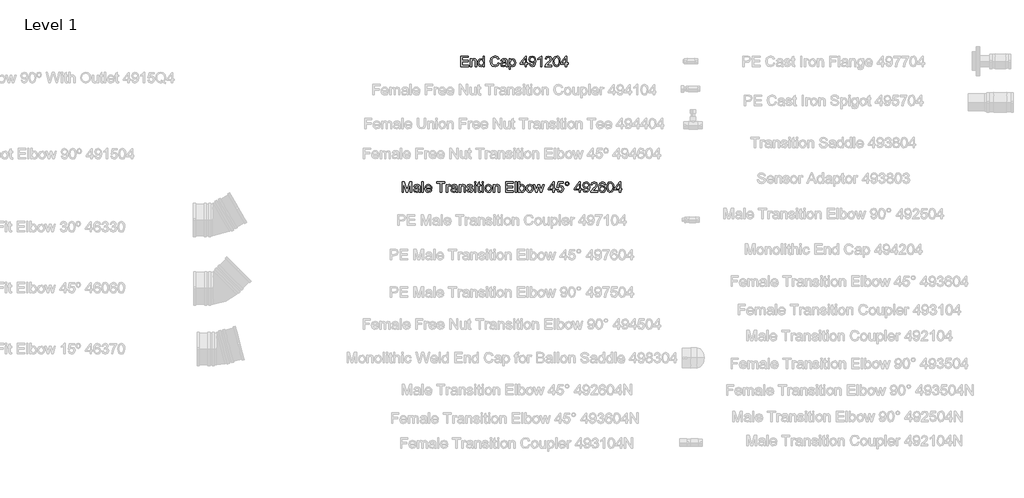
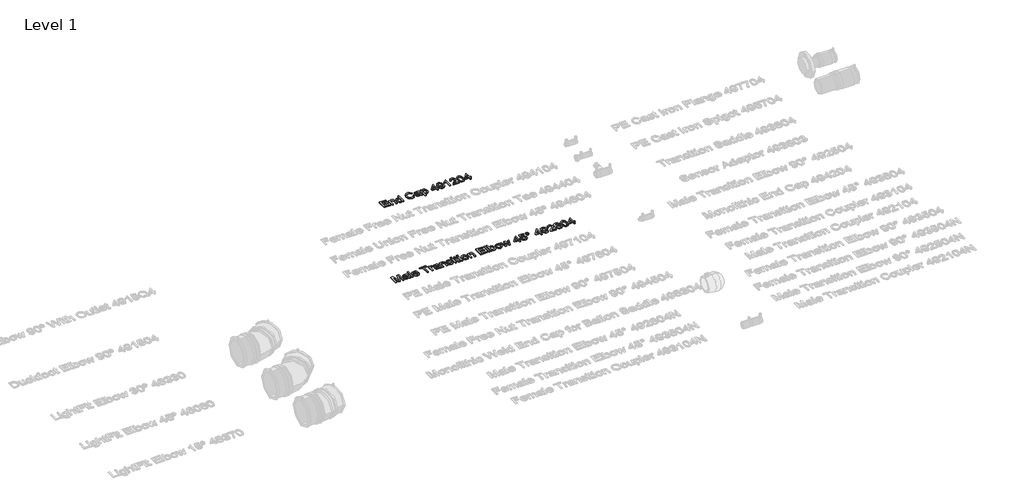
# One storey, part 30 of 38: 2 proxies.
"""IFC4 building model written with IfcOpenShell, lengths in millimetres."""

from ifc_helpers import new_model, si_unit, origin, origin_with_axes, place, context, project, spatial, polyline, outline, extrude, element, save

model = new_model("IFC4")

# Units and contexts
model_context = context("Model", 3, world=origin())
ifc_project = project(units=[si_unit("LENGTHUNIT", "METRE", prefix="MILLI")], contexts=[model_context])

# Site, building, storey
site = spatial("IfcSite", under=ifc_project)
building = spatial("IfcBuilding", under=site)
storey = spatial("IfcBuildingStorey", under=building, Name="Level 1", Elevation=0.0)

# Proxies
placement = place(None, origin())
element("IfcBuildingElementProxy", 1, Name="100 mm Arial", ObjectType="100 mm Arial", at=placement, inside=storey, context=model_context, shape_type="SweptSolid", body=[
    extrude(outline(polyline([(16027.7239556, 5081.8693943), (16027.7239556, 5140.9463174), (16070.185494, 5140.9463174), (16070.185494, 5133.561702), (16035.1085709, 5133.561702), (16035.1085709, 5116.0232405), (16068.3393402, 5116.0232405), (16068.3393402, 5108.6386251), (16035.1085709, 5108.6386251), (16035.1085709, 5089.2540097), (16071.1085709, 5089.2540097), (16071.1085709, 5081.8693943), (16027.7239556, 5081.8693943)])), origin_with_axes(), (0.0, 0.0, 1.0), 5.0),
    extrude(outline(polyline([(16081.2624171, 5081.8693943), (16081.2624171, 5125.2540097), (16088.6470325, 5125.2540097), (16088.6470325, 5119.1963174), (16094.2936671, 5124.4318943), (16102.0028017, 5126.1770866), (16108.9763594, 5124.7708366), (16113.7359748, 5121.078529), (16115.9499171, 5115.6482405), (16116.3393402, 5108.5088174), (16116.3393402, 5081.8693943), (16108.9547248, 5081.8693943), (16108.9547248, 5107.5136251), (16108.1037632, 5114.047279), (16105.0965517, 5117.5016059), (16100.0268402, 5118.7924713), (16092.0148209, 5115.8934328), (16088.6470325, 5104.8886251), (16088.6470325, 5081.8693943), (16081.2624171, 5081.8693943)])), origin_with_axes(), (0.0, 0.0, 1.0), 5.0),
    extrude(outline(polyline([(16153.2624171, 5081.8693943), (16153.2624171, 5088.8357405), (16148.3765998, 5082.9186732), (16141.622994, 5080.9463174), (16132.4787632, 5083.8020866), (16126.0172248, 5091.7708366), (16123.7239556, 5103.5184328), (16125.8369363, 5115.2732405), (16132.1686671, 5123.3645866), (16141.5941479, 5126.1770866), (16148.4018402, 5124.1650674), (16153.2624171, 5118.936702), (16153.2624171, 5140.9463174), (16160.6470325, 5140.9463174), (16160.6470325, 5081.8693943), (16153.2624171, 5081.8693943)]), holes=[polyline([(16131.1085709, 5103.547279), (16134.4403017, 5092.1169905), (16142.3008786, 5088.3309328), (16150.0677056, 5091.9439136), (16153.2624171, 5102.984779), (16150.0100132, 5114.9703559), (16141.997994, 5118.7924713), (16134.2239556, 5115.1217982), (16131.1085709, 5103.547279)])]), origin_with_axes(), (0.0, 0.0, 1.0), 5.0),
    extrude(outline(polyline([(16237.2624171, 5102.8693943), (16244.6470325, 5100.9655482), (16235.8922248, 5086.0737213), (16220.4306863, 5080.9463174), (16205.0628979, 5084.8261251), (16196.0484748, 5096.061702), (16192.9547248, 5111.8549713), (16196.4523209, 5127.9078559), (16206.3970325, 5138.3141059), (16220.5893402, 5141.8693943), (16235.3802056, 5137.2684328), (16243.7239556, 5124.3165097), (16236.3393402, 5122.5568943), (16230.2816479, 5131.6362213), (16220.3008786, 5134.484779), (16208.747994, 5131.3261251), (16202.2215517, 5122.8453559), (16200.3393402, 5111.8693943), (16202.5677056, 5099.1482405), (16209.5052056, 5091.0208366), (16219.6951094, 5088.3309328), (16230.9955902, 5091.9943943), (16237.2624171, 5102.8693943)])), origin_with_axes(), (0.0, 0.0, 1.0), 5.0),
    extrude(outline(polyline([(16281.5701094, 5087.4078559), (16274.4090517, 5082.4030482), (16266.497994, 5080.9463174), (16255.7744363, 5084.4511251), (16252.0316479, 5093.4078559), (16253.4451094, 5099.249202), (16257.1590517, 5103.4895866), (16262.3297248, 5105.9126636), (16268.7191479, 5107.0232405), (16281.5268402, 5109.561702), (16281.5701094, 5111.2059328), (16279.5364556, 5116.6578559), (16271.372994, 5118.7924713), (16263.9018402, 5117.3717982), (16260.3393402, 5112.3309328), (16252.9547248, 5113.2540097), (16256.1494363, 5120.4655482), (16262.5821286, 5124.6915097), (16272.3249171, 5126.1770866), (16281.2744363, 5124.8645866), (16286.3297248, 5121.5689136), (16288.5941479, 5116.5568943), (16288.9547248, 5110.0953559), (16288.9547248, 5100.9078559), (16289.3297248, 5088.078529), (16290.8008786, 5081.8693943), (16283.4162632, 5081.8693943), (16281.5701094, 5087.4078559)]), holes=[polyline([(16281.5701094, 5102.1770866), (16269.6566479, 5099.9126636), (16263.3032825, 5098.7155482), (16260.4258786, 5096.7684328), (16259.4162632, 5093.9270866), (16261.6157825, 5089.9318943), (16268.0701094, 5088.3309328), (16275.5412632, 5090.0977597), (16280.3585709, 5094.374202), (16281.5268402, 5100.0857405), (16281.5701094, 5102.1770866)])]), origin_with_axes(), (0.0, 0.0, 1.0), 5.0),
    extrude(outline(polyline([(16299.1085709, 5065.2540097), (16299.1085709, 5125.2540097), (16306.4931863, 5125.2540097), (16306.4931863, 5118.0136251), (16311.5989556, 5124.1362213), (16318.4931863, 5126.1770866), (16327.8537632, 5123.3213174), (16333.9691479, 5115.2732405), (16336.0316479, 5103.8934328), (16333.7023209, 5091.9294905), (16326.9378979, 5083.780452), (16317.5989556, 5080.9463174), (16311.1734748, 5082.842952), (16306.4931863, 5087.6386251), (16306.4931863, 5065.2540097), (16299.1085709, 5065.2540097)]), holes=[polyline([(16306.4931863, 5103.2155482), (16309.6878979, 5091.9655482), (16317.4403017, 5088.3309328), (16325.3513594, 5092.0953559), (16328.6470325, 5103.7636251), (16325.4306863, 5115.0424713), (16317.7431863, 5118.7924713), (16309.904244, 5114.8044905), (16306.4931863, 5103.2155482)])]), origin_with_axes(), (0.0, 0.0, 1.0), 5.0),
    extrude(outline(polyline([(16389.5701094, 5081.8693943), (16389.5701094, 5095.7155482), (16362.8008786, 5095.7155482), (16362.8008786, 5103.1001636), (16391.4162632, 5140.0232405), (16396.9547248, 5140.0232405), (16396.9547248, 5103.1001636), (16404.3393402, 5103.1001636), (16404.3393402, 5095.7155482), (16396.9547248, 5095.7155482), (16396.9547248, 5081.8693943), (16389.5701094, 5081.8693943)]), holes=[polyline([(16389.5701094, 5103.1001636), (16389.5701094, 5125.9174713), (16371.8874171, 5103.1001636), (16389.5701094, 5103.1001636)])]), origin_with_axes(), (0.0, 0.0, 1.0), 5.0),
    extrude(outline(polyline([(16411.7239556, 5096.6386251), (16419.1085709, 5097.561702), (16422.4258786, 5090.516029), (16428.7143402, 5088.3309328), (16434.6927056, 5089.7371828), (16438.7455902, 5093.4943943), (16441.1614556, 5099.9126636), (16442.2287632, 5108.4799713), (16436.279244, 5104.3261251), (16428.1806863, 5102.1770866), (16415.841744, 5107.4270866), (16410.8008786, 5121.2588174), (16416.0869363, 5135.5376636), (16429.3345325, 5140.9463174), (16439.8561671, 5137.859779), (16447.0965517, 5129.061702), (16449.5701094, 5112.5328559), (16447.1037632, 5094.5977597), (16439.7696286, 5084.436702), (16428.3681863, 5080.9463174), (16417.0172248, 5085.0641059), (16411.7239556, 5096.6386251)]), holes=[polyline([(16442.185494, 5121.4318943), (16438.997994, 5130.2876636), (16430.5316479, 5133.561702), (16421.6470325, 5130.0352597), (16418.185494, 5120.8982405), (16421.4595325, 5112.7131443), (16430.3297248, 5109.561702), (16438.8465517, 5112.7131443), (16442.185494, 5121.4318943)])]), origin_with_axes(), (0.0, 0.0, 1.0), 5.0),
    extrude(outline(polyline([(16483.7239556, 5081.8693943), (16476.3393402, 5081.8693943), (16476.3393402, 5127.9078559), (16469.3441479, 5122.9246828), (16461.5701094, 5119.1963174), (16461.5701094, 5126.1770866), (16472.3946286, 5133.0857405), (16478.9643402, 5140.9463174), (16483.7239556, 5140.9463174), (16483.7239556, 5081.8693943)])), origin_with_axes(), (0.0, 0.0, 1.0), 5.0),
    extrude(outline(polyline([(16539.1085709, 5089.2540097), (16539.1085709, 5081.8693943), (16500.3393402, 5081.8693943), (16501.1326094, 5086.9607405), (16505.6181863, 5094.7996828), (16514.8633786, 5103.359779), (16527.6133786, 5115.6626636), (16530.8008786, 5124.0280482), (16527.7936671, 5130.7996828), (16519.9403017, 5133.561702), (16511.7552056, 5130.8645866), (16508.6470325, 5123.4078559), (16501.2624171, 5124.3309328), (16506.9234748, 5136.6915097), (16520.0989556, 5140.9463174), (16533.3177056, 5136.2155482), (16538.185494, 5124.4751636), (16536.872994, 5117.4727597), (16532.5100132, 5110.2323751), (16521.9306863, 5100.1145866), (16513.435494, 5093.0112213), (16510.1037632, 5089.2540097), (16539.1085709, 5089.2540097)])), origin_with_axes(), (0.0, 0.0, 1.0), 5.0),
    extrude(outline(polyline([(16546.4931863, 5110.9318943), (16548.6638594, 5127.9294905), (16555.1109748, 5137.7299713), (16565.8778017, 5140.9463174), (16574.5028017, 5139.0424713), (16580.4595325, 5133.5544905), (16583.9210709, 5124.8141059), (16585.2624171, 5110.9318943), (16583.1133786, 5094.0064136), (16576.6878979, 5084.1842982), (16565.8778017, 5080.9463174), (16558.2047248, 5082.3525674), (16552.3778017, 5086.5713174), (16547.9643402, 5096.562904), (16546.4931863, 5110.9318943)]), holes=[polyline([(16553.8778017, 5110.9463174), (16557.3393402, 5092.6073751), (16565.8778017, 5088.3309328), (16574.4162632, 5092.6217982), (16577.8778017, 5110.9463174), (16574.5316479, 5129.0761251), (16565.7912632, 5133.561702), (16557.4547248, 5129.609779), (16553.8778017, 5110.9463174)])]), origin_with_axes(), (0.0, 0.0, 1.0), 5.0),
    extrude(outline(polyline([(16615.7239556, 5081.8693943), (16615.7239556, 5095.7155482), (16588.9547248, 5095.7155482), (16588.9547248, 5103.1001636), (16617.5701094, 5140.0232405), (16623.1085709, 5140.0232405), (16623.1085709, 5103.1001636), (16630.4931863, 5103.1001636), (16630.4931863, 5095.7155482), (16623.1085709, 5095.7155482), (16623.1085709, 5081.8693943), (16615.7239556, 5081.8693943)]), holes=[polyline([(16615.7239556, 5103.1001636), (16615.7239556, 5125.9174713), (16598.0412632, 5103.1001636), (16615.7239556, 5103.1001636)])]), origin_with_axes(), (0.0, 0.0, 1.0), 5.0),
])
element("IfcBuildingElementProxy", 2, Name="100 mm Arial", ObjectType="100 mm Arial", at=placement, inside=storey, context=model_context, shape_type="SweptSolid", body=[
    extrude(outline(polyline([(15697.4287831, 4374.446795), (15697.4287831, 4433.523718), (15710.1355139, 4433.523718), (15722.2220524, 4391.884295), (15724.6595524, 4383.1871796), (15727.2989754, 4392.6054488), (15739.1835908, 4433.523718), (15751.8903216, 4433.523718), (15751.8903216, 4374.446795), (15744.5057062, 4374.446795), (15744.5057062, 4426.1391027), (15729.6643601, 4374.446795), (15719.6547447, 4374.446795), (15704.8133985, 4426.1391027), (15704.8133985, 4374.446795), (15697.4287831, 4374.446795)])), origin_with_axes(), (0.0, 0.0, 1.0), 5.0),
    extrude(outline(polyline([(15791.5826293, 4379.9852565), (15784.4215716, 4374.9804488), (15776.5105139, 4373.523718), (15765.7869562, 4377.0285257), (15762.0441677, 4385.9852565), (15763.4576293, 4391.8266027), (15767.1715716, 4396.0669873), (15772.3422447, 4398.4900642), (15778.7316677, 4399.6006411), (15791.5393601, 4402.1391027), (15791.5826293, 4403.7833334), (15789.5489754, 4409.2352565), (15781.3855139, 4411.3698719), (15773.9143601, 4409.9491988), (15770.3518601, 4404.9083334), (15762.9672447, 4405.8314103), (15766.1619562, 4413.0429488), (15772.5946485, 4417.2689103), (15782.337437, 4418.7544873), (15791.2869562, 4417.4419873), (15796.3422447, 4414.1463142), (15798.6066677, 4409.134295), (15798.9672447, 4402.6727565), (15798.9672447, 4393.4852565), (15799.3422447, 4380.6559296), (15800.8133985, 4374.446795), (15793.4287831, 4374.446795), (15791.5826293, 4379.9852565)]), holes=[polyline([(15791.5826293, 4394.7544873), (15779.6691677, 4392.4900642), (15773.3158024, 4391.2929488), (15770.4383985, 4389.3458334), (15769.4287831, 4386.5044873), (15771.6283024, 4382.509295), (15778.0826293, 4380.9083334), (15785.5537831, 4382.6751603), (15790.3710908, 4386.9516027), (15791.5393601, 4392.6631411), (15791.5826293, 4394.7544873)])]), origin_with_axes(), (0.0, 0.0, 1.0), 5.0),
    extrude(outline(polyline([(15809.1210908, 4374.446795), (15809.1210908, 4433.523718), (15816.5057062, 4433.523718), (15816.5057062, 4374.446795), (15809.1210908, 4374.446795)])), origin_with_axes(), (0.0, 0.0, 1.0), 5.0),
    extrude(outline(polyline([(15857.9576293, 4387.3698719), (15865.1980139, 4386.446795), (15858.4263793, 4376.9131411), (15845.8133985, 4373.523718), (15837.1487351, 4374.9858575), (15830.4816677, 4379.3722757), (15826.2304658, 4386.3981171), (15824.8133985, 4395.7785257), (15826.2448889, 4405.4744392), (15830.5393601, 4412.7256411), (15837.1162831, 4417.2472757), (15845.3951293, 4418.7544873), (15853.4161629, 4417.2508815), (15859.8254177, 4412.7400642), (15864.0279418, 4405.5032853), (15865.4287831, 4395.821795), (15865.3855139, 4393.8314103), (15832.1980139, 4393.8314103), (15836.4456101, 4384.2400642), (15845.9576293, 4380.9083334), (15853.1980139, 4382.4516027), (15857.9576293, 4387.3698719)]), holes=[polyline([(15832.1980139, 4401.2160257), (15858.0441677, 4401.2160257), (15855.087437, 4407.9083334), (15845.3662831, 4411.3698719), (15836.2725331, 4408.6078527), (15832.1980139, 4401.2160257)])]), origin_with_axes(), (0.0, 0.0, 1.0), 5.0),
    extrude(outline(polyline([(15911.5826293, 4374.446795), (15911.5826293, 4426.1391027), (15892.1980139, 4426.1391027), (15892.1980139, 4433.523718), (15938.3518601, 4433.523718), (15938.3518601, 4426.1391027), (15918.9672447, 4426.1391027), (15918.9672447, 4374.446795), (15911.5826293, 4374.446795)])), origin_with_axes(), (0.0, 0.0, 1.0), 5.0),
    extrude(outline(polyline([(15945.7364754, 4374.446795), (15945.7364754, 4417.8314103), (15952.1980139, 4417.8314103), (15952.1980139, 4411.4131411), (15956.7845524, 4417.3266027), (15961.399937, 4418.7544873), (15968.8133985, 4416.4756411), (15966.3470524, 4409.8554488), (15961.1547447, 4411.3698719), (15956.9792639, 4409.9131411), (15954.3182062, 4405.8746796), (15953.1210908, 4397.2496796), (15953.1210908, 4374.446795), (15945.7364754, 4374.446795)])), origin_with_axes(), (0.0, 0.0, 1.0), 5.0),
    extrude(outline(polyline([(16001.1210908, 4379.9852565), (15993.9600331, 4374.9804488), (15986.0489754, 4373.523718), (15975.3254177, 4377.0285257), (15971.5826293, 4385.9852565), (15972.9960908, 4391.8266027), (15976.7100331, 4396.0669873), (15981.8807062, 4398.4900642), (15988.2701293, 4399.6006411), (16001.0778216, 4402.1391027), (16001.1210908, 4403.7833334), (15999.087437, 4409.2352565), (15990.9239754, 4411.3698719), (15983.4528216, 4409.9491988), (15979.8903216, 4404.9083334), (15972.5057062, 4405.8314103), (15975.7004177, 4413.0429488), (15982.1331101, 4417.2689103), (15991.8758985, 4418.7544873), (16000.8254177, 4417.4419873), (16005.8807062, 4414.1463142), (16008.1451293, 4409.134295), (16008.5057062, 4402.6727565), (16008.5057062, 4393.4852565), (16008.8807062, 4380.6559296), (16010.3518601, 4374.446795), (16002.9672447, 4374.446795), (16001.1210908, 4379.9852565)]), holes=[polyline([(16001.1210908, 4394.7544873), (15989.2076293, 4392.4900642), (15982.8542639, 4391.2929488), (15979.9768601, 4389.3458334), (15978.9672447, 4386.5044873), (15981.1667639, 4382.509295), (15987.6210908, 4380.9083334), (15995.0922447, 4382.6751603), (15999.9095524, 4386.9516027), (16001.0778216, 4392.6631411), (16001.1210908, 4394.7544873)])]), origin_with_axes(), (0.0, 0.0, 1.0), 5.0),
    extrude(outline(polyline([(16018.6595524, 4374.446795), (16018.6595524, 4417.8314103), (16026.0441677, 4417.8314103), (16026.0441677, 4411.773718), (16031.6908024, 4417.009295), (16039.399937, 4418.7544873), (16046.3734947, 4417.3482373), (16051.1331101, 4413.6559296), (16053.3470524, 4408.2256411), (16053.7364754, 4401.086218), (16053.7364754, 4374.446795), (16046.3518601, 4374.446795), (16046.3518601, 4400.0910257), (16045.5008985, 4406.6246796), (16042.493687, 4410.0790065), (16037.4239754, 4411.3698719), (16029.4119562, 4408.4708334), (16026.0441677, 4397.4660257), (16026.0441677, 4374.446795), (16018.6595524, 4374.446795)])), origin_with_axes(), (0.0, 0.0, 1.0), 5.0),
    extrude(outline(polyline([(16061.1210908, 4387.3698719), (16068.5057062, 4388.2929488), (16071.9239754, 4382.8121796), (16079.7557062, 4380.9083334), (16087.2845524, 4382.6535257), (16089.7364754, 4386.7496796), (16087.2701293, 4390.0669873), (16079.6691677, 4392.1727565), (16068.5489754, 4395.7857373), (16063.6956101, 4400.0044873), (16062.0441677, 4405.961218), (16063.3710908, 4411.4636219), (16066.9912831, 4415.6679488), (16071.6859947, 4417.853045), (16078.0393601, 4418.7544873), (16087.024937, 4417.304968), (16092.7364754, 4413.3818911), (16095.274937, 4406.7544873), (16087.8903216, 4405.8314103), (16085.1138793, 4409.9059296), (16078.6162831, 4411.3698719), (16071.5489754, 4409.9708334), (16069.4287831, 4406.711218), (16070.3085908, 4404.5621796), (16073.0633985, 4402.9323719), (16079.4239754, 4401.3602565), (16090.2629177, 4397.884295), (16095.2965716, 4393.946795), (16097.1210908, 4387.5285257), (16094.9792639, 4380.461218), (16088.7989754, 4375.3338142), (16079.6547447, 4373.523718), (16066.774937, 4377.0141027), (16061.1210908, 4387.3698719)])), origin_with_axes(), (0.0, 0.0, 1.0), 5.0),
    extrude(outline(polyline([(16105.4287831, 4426.1391027), (16105.4287831, 4433.523718), (16112.8133985, 4433.523718), (16112.8133985, 4426.1391027), (16105.4287831, 4426.1391027)])), origin_with_axes(), (0.0, 0.0, 1.0), 5.0),
    extrude(outline(polyline([(16105.4287831, 4374.446795), (16105.4287831, 4417.8314103), (16112.8133985, 4417.8314103), (16112.8133985, 4374.446795), (16105.4287831, 4374.446795)])), origin_with_axes(), (0.0, 0.0, 1.0), 5.0),
    extrude(outline(polyline([(16139.5826293, 4380.6054488), (16140.5057062, 4374.2304488), (16134.9816677, 4373.523718), (16128.7941677, 4374.7496796), (16125.7076293, 4377.9660257), (16124.8133985, 4386.3458334), (16124.8133985, 4410.446795), (16119.274937, 4410.446795), (16119.274937, 4417.8314103), (16124.8133985, 4417.8314103), (16124.8133985, 4428.3746796), (16132.1980139, 4432.7160257), (16132.1980139, 4417.8314103), (16139.5826293, 4417.8314103), (16139.5826293, 4410.446795), (16132.1980139, 4410.446795), (16132.1980139, 4386.5621796), (16132.587437, 4382.7544873), (16133.8494562, 4381.4059296), (16136.3662831, 4380.9083334), (16139.5826293, 4380.6054488)])), origin_with_axes(), (0.0, 0.0, 1.0), 5.0),
    extrude(outline(polyline([(16146.9672447, 4426.1391027), (16146.9672447, 4433.523718), (16154.3518601, 4433.523718), (16154.3518601, 4426.1391027), (16146.9672447, 4426.1391027)])), origin_with_axes(), (0.0, 0.0, 1.0), 5.0),
    extrude(outline(polyline([(16146.9672447, 4374.446795), (16146.9672447, 4417.8314103), (16154.3518601, 4417.8314103), (16154.3518601, 4374.446795), (16146.9672447, 4374.446795)])), origin_with_axes(), (0.0, 0.0, 1.0), 5.0),
    extrude(outline(polyline([(16163.5826293, 4396.1391027), (16165.1799851, 4406.5994392), (16169.9720524, 4413.9516027), (16182.9816677, 4418.7544873), (16190.7394802, 4417.2923478), (16196.9359947, 4412.9059296), (16200.9978937, 4405.9413863), (16202.3518601, 4396.7448719), (16199.9576293, 4383.6054488), (16192.9840716, 4376.1703527), (16182.9816677, 4373.523718), (16175.1301052, 4374.9804488), (16168.9408024, 4379.3506411), (16164.9221726, 4386.461218), (16163.5826293, 4396.1391027)]), holes=[polyline([(16170.9672447, 4396.1535257), (16174.3855139, 4384.7088142), (16182.9816677, 4380.9083334), (16191.5489754, 4384.7304488), (16194.9672447, 4396.384295), (16191.5273408, 4407.5693911), (16182.9816677, 4411.3698719), (16174.3855139, 4407.5838142), (16170.9672447, 4396.1535257)])]), origin_with_axes(), (0.0, 0.0, 1.0), 5.0),
    extrude(outline(polyline([(16210.6595524, 4374.446795), (16210.6595524, 4417.8314103), (16218.0441677, 4417.8314103), (16218.0441677, 4411.773718), (16223.6908024, 4417.009295), (16231.399937, 4418.7544873), (16238.3734947, 4417.3482373), (16243.1331101, 4413.6559296), (16245.3470524, 4408.2256411), (16245.7364754, 4401.086218), (16245.7364754, 4374.446795), (16238.3518601, 4374.446795), (16238.3518601, 4400.0910257), (16237.5008985, 4406.6246796), (16234.493687, 4410.0790065), (16229.4239754, 4411.3698719), (16221.4119562, 4408.4708334), (16218.0441677, 4397.4660257), (16218.0441677, 4374.446795), (16210.6595524, 4374.446795)])), origin_with_axes(), (0.0, 0.0, 1.0), 5.0),
    extrude(outline(polyline([(16279.8903216, 4374.446795), (16279.8903216, 4433.523718), (16322.3518601, 4433.523718), (16322.3518601, 4426.1391027), (16287.274937, 4426.1391027), (16287.274937, 4408.6006411), (16320.5057062, 4408.6006411), (16320.5057062, 4401.2160257), (16287.274937, 4401.2160257), (16287.274937, 4381.8314103), (16323.274937, 4381.8314103), (16323.274937, 4374.446795), (16279.8903216, 4374.446795)])), origin_with_axes(), (0.0, 0.0, 1.0), 5.0),
    extrude(outline(polyline([(16333.4287831, 4374.446795), (16333.4287831, 4433.523718), (16340.8133985, 4433.523718), (16340.8133985, 4374.446795), (16333.4287831, 4374.446795)])), origin_with_axes(), (0.0, 0.0, 1.0), 5.0),
    extrude(outline(polyline([(16359.274937, 4374.446795), (16351.8903216, 4374.446795), (16351.8903216, 4433.523718), (16359.274937, 4433.523718), (16359.274937, 4411.6150642), (16364.4456101, 4416.9696315), (16370.8710908, 4418.7544873), (16378.2701293, 4417.1463142), (16384.0105139, 4412.6246796), (16387.5369562, 4405.5934296), (16388.8133985, 4396.7881411), (16387.4918841, 4386.929968), (16383.5273408, 4379.5958334), (16377.7094322, 4375.0417469), (16370.8278216, 4373.523718), (16364.2617158, 4375.4816507), (16359.274937, 4381.3554488), (16359.274937, 4374.446795)]), holes=[polyline([(16359.274937, 4396.4419873), (16361.2941677, 4386.1150642), (16370.1932062, 4380.9083334), (16378.0970524, 4384.7448719), (16381.4287831, 4396.1823719), (16378.2340716, 4407.6631411), (16370.5105139, 4411.3698719), (16362.6066677, 4407.5333334), (16359.274937, 4396.4419873)])]), origin_with_axes(), (0.0, 0.0, 1.0), 5.0),
    extrude(outline(polyline([(16395.274937, 4396.1391027), (16396.8722927, 4406.5994392), (16401.6643601, 4413.9516027), (16414.6739754, 4418.7544873), (16422.4317879, 4417.2923478), (16428.6283024, 4412.9059296), (16432.6902014, 4405.9413863), (16434.0441677, 4396.7448719), (16431.649937, 4383.6054488), (16424.6763793, 4376.1703527), (16414.6739754, 4373.523718), (16406.8224129, 4374.9804488), (16400.6331101, 4379.3506411), (16396.6144802, 4386.461218), (16395.274937, 4396.1391027)]), holes=[polyline([(16402.6595524, 4396.1535257), (16406.0778216, 4384.7088142), (16414.6739754, 4380.9083334), (16423.2412831, 4384.7304488), (16426.6595524, 4396.384295), (16423.2196485, 4407.5693911), (16414.6739754, 4411.3698719), (16406.0778216, 4407.5838142), (16402.6595524, 4396.1535257)])]), origin_with_axes(), (0.0, 0.0, 1.0), 5.0),
    extrude(outline(polyline([(16449.5489754, 4374.446795), (16436.3518601, 4417.8314103), (16444.024937, 4417.8314103), (16451.5105139, 4392.5189103), (16453.7460908, 4383.4756411), (16455.5778216, 4392.1871796), (16461.5345524, 4417.8314103), (16470.3326293, 4417.8314103), (16476.2605139, 4392.259295), (16477.8903216, 4384.3698719), (16480.2268601, 4392.6919873), (16487.7268601, 4417.8314103), (16495.4287831, 4417.8314103), (16482.1307062, 4374.446795), (16473.2028216, 4374.446795), (16467.5345524, 4399.8891027), (16465.8903216, 4407.821795), (16458.5778216, 4374.446795), (16449.5489754, 4374.446795)])), origin_with_axes(), (0.0, 0.0, 1.0), 5.0),
    extrude(outline(polyline([(16545.7364754, 4374.446795), (16545.7364754, 4388.2929488), (16518.9672447, 4388.2929488), (16518.9672447, 4395.6775642), (16547.5826293, 4432.6006411), (16553.1210908, 4432.6006411), (16553.1210908, 4395.6775642), (16560.5057062, 4395.6775642), (16560.5057062, 4388.2929488), (16553.1210908, 4388.2929488), (16553.1210908, 4374.446795), (16545.7364754, 4374.446795)]), holes=[polyline([(16545.7364754, 4395.6775642), (16545.7364754, 4418.4948719), (16528.0537831, 4395.6775642), (16545.7364754, 4395.6775642)])]), origin_with_axes(), (0.0, 0.0, 1.0), 5.0),
    extrude(outline(polyline([(16566.9672447, 4390.1391027), (16574.3518601, 4391.0621796), (16578.0730139, 4383.4540065), (16585.7893601, 4380.9083334), (16595.0489754, 4384.4491988), (16598.3518601, 4393.8458334), (16595.2581101, 4402.6150642), (16585.9047447, 4405.8314103), (16579.4215716, 4404.5477565), (16575.274937, 4401.2160257), (16567.8903216, 4402.1391027), (16574.3518601, 4432.6006411), (16602.9672447, 4432.6006411), (16602.9672447, 4425.2160257), (16580.3230139, 4425.2160257), (16577.1643601, 4408.946795), (16587.9672447, 4413.2160257), (16600.5946485, 4407.9227565), (16605.7364754, 4394.3073719), (16601.1066677, 4380.6054488), (16594.4576293, 4375.2941507), (16585.7605139, 4373.523718), (16572.7292639, 4378.0741988), (16566.9672447, 4390.1391027)])), origin_with_axes(), (0.0, 0.0, 1.0), 5.0),
    extrude(outline(polyline([(16614.0441677, 4423.384295), (16617.2965716, 4431.2160257), (16625.1066677, 4434.446795), (16632.9672447, 4431.2160257), (16636.1980139, 4423.384295), (16632.9456101, 4415.5453527), (16625.1066677, 4412.2929488), (16617.2965716, 4415.523718), (16614.0441677, 4423.384295)]), holes=[polyline([(16618.6595524, 4423.3698719), (16620.556187, 4418.7977565), (16625.1355139, 4416.9083334), (16629.6859947, 4418.7977565), (16631.5826293, 4423.3698719), (16629.6859947, 4427.9419873), (16625.1355139, 4429.8314103), (16620.556187, 4427.9419873), (16618.6595524, 4423.3698719)])]), origin_with_axes(), (0.0, 0.0, 1.0), 5.0),
    extrude(outline(polyline([(16692.5057062, 4374.446795), (16692.5057062, 4388.2929488), (16665.7364754, 4388.2929488), (16665.7364754, 4395.6775642), (16694.3518601, 4432.6006411), (16699.8903216, 4432.6006411), (16699.8903216, 4395.6775642), (16707.274937, 4395.6775642), (16707.274937, 4388.2929488), (16699.8903216, 4388.2929488), (16699.8903216, 4374.446795), (16692.5057062, 4374.446795)]), holes=[polyline([(16692.5057062, 4395.6775642), (16692.5057062, 4418.4948719), (16674.8230139, 4395.6775642), (16692.5057062, 4395.6775642)])]), origin_with_axes(), (0.0, 0.0, 1.0), 5.0),
    extrude(outline(polyline([(16714.6595524, 4389.2160257), (16722.0441677, 4390.1391027), (16725.3614754, 4383.0934296), (16731.649937, 4380.9083334), (16737.6283024, 4382.3145834), (16741.681187, 4386.071795), (16744.0970524, 4392.4900642), (16745.1643601, 4401.0573719), (16739.2148408, 4396.9035257), (16731.1162831, 4394.7544873), (16718.7773408, 4400.0044873), (16713.7364754, 4413.836218), (16719.0225331, 4428.1150642), (16732.2701293, 4433.523718), (16742.7917639, 4430.4371796), (16750.0321485, 4421.6391027), (16752.5057062, 4405.1102565), (16750.0393601, 4387.1751603), (16742.7052254, 4377.0141027), (16731.3037831, 4373.523718), (16719.9528216, 4377.6415065), (16714.6595524, 4389.2160257)]), holes=[polyline([(16745.1210908, 4414.009295), (16741.9335908, 4422.8650642), (16733.4672447, 4426.1391027), (16724.5826293, 4422.6126603), (16721.1210908, 4413.4756411), (16724.3951293, 4405.290545), (16733.2653216, 4402.1391027), (16741.7821485, 4405.290545), (16745.1210908, 4414.009295)])]), origin_with_axes(), (0.0, 0.0, 1.0), 5.0),
    extrude(outline(polyline([(16796.8133985, 4381.8314103), (16796.8133985, 4374.446795), (16758.0441677, 4374.446795), (16758.837437, 4379.5381411), (16763.3230139, 4387.3770834), (16772.5682062, 4395.9371796), (16785.3182062, 4408.2400642), (16788.5057062, 4416.6054488), (16785.4984947, 4423.3770834), (16777.6451293, 4426.1391027), (16769.4600331, 4423.4419873), (16766.3518601, 4415.9852565), (16758.9672447, 4416.9083334), (16764.6283024, 4429.2689103), (16777.8037831, 4433.523718), (16791.0225331, 4428.7929488), (16795.8903216, 4417.0525642), (16794.5778216, 4410.0501603), (16790.2148408, 4402.8097757), (16779.6355139, 4392.6919873), (16771.1403216, 4385.5886219), (16767.8085908, 4381.8314103), (16796.8133985, 4381.8314103)])), origin_with_axes(), (0.0, 0.0, 1.0), 5.0),
    extrude(outline(polyline([(16842.0441677, 4417.8314103), (16834.6595524, 4416.9083334), (16831.8614754, 4423.0669873), (16824.462437, 4426.1391027), (16817.7989754, 4424.3506411), (16812.7581101, 4417.6366988), (16810.6595524, 4404.4756411), (16817.1715716, 4410.367468), (16825.2412831, 4412.2929488), (16837.7893601, 4407.0285257), (16842.9672447, 4393.4275642), (16840.5297447, 4383.2376603), (16833.8230139, 4376.0261219), (16824.1451293, 4373.523718), (16815.7671245, 4375.1823719), (16809.0946485, 4380.1583334), (16804.7298649, 4388.9419873), (16803.274937, 4402.023718), (16804.8903216, 4416.7316507), (16809.7364754, 4426.7881411), (16816.353062, 4431.8398238), (16824.9239754, 4433.523718), (16836.5922447, 4429.3554488), (16842.0441677, 4417.8314103)]), holes=[polyline([(16810.6595524, 4393.5429488), (16812.368687, 4387.1463142), (16816.9119562, 4382.5020834), (16823.5682062, 4380.9083334), (16832.2725331, 4384.211218), (16835.5826293, 4393.1823719), (16832.3158024, 4401.7713142), (16823.2653216, 4404.9083334), (16814.3302254, 4401.7713142), (16810.6595524, 4393.5429488)])]), origin_with_axes(), (0.0, 0.0, 1.0), 5.0),
    extrude(outline(polyline([(16849.4287831, 4403.509295), (16851.5994562, 4420.5068911), (16858.0465716, 4430.3073719), (16868.8133985, 4433.523718), (16877.4383985, 4431.6198719), (16883.3951293, 4426.1318911), (16886.8566677, 4417.3915065), (16888.1980139, 4403.509295), (16886.0489754, 4386.5838142), (16879.6234947, 4376.7616988), (16868.8133985, 4373.523718), (16861.1403216, 4374.929968), (16855.3133985, 4379.148718), (16850.899937, 4389.1403046), (16849.4287831, 4403.509295)]), holes=[polyline([(16856.8133985, 4403.523718), (16860.274937, 4385.1847757), (16868.8133985, 4380.9083334), (16877.3518601, 4385.1991988), (16880.8133985, 4403.523718), (16877.4672447, 4421.6535257), (16868.7268601, 4426.1391027), (16860.3903216, 4422.1871796), (16856.8133985, 4403.523718)])]), origin_with_axes(), (0.0, 0.0, 1.0), 5.0),
    extrude(outline(polyline([(16918.6595524, 4374.446795), (16918.6595524, 4388.2929488), (16891.8903216, 4388.2929488), (16891.8903216, 4395.6775642), (16920.5057062, 4432.6006411), (16926.0441677, 4432.6006411), (16926.0441677, 4395.6775642), (16933.4287831, 4395.6775642), (16933.4287831, 4388.2929488), (16926.0441677, 4388.2929488), (16926.0441677, 4374.446795), (16918.6595524, 4374.446795)]), holes=[polyline([(16918.6595524, 4395.6775642), (16918.6595524, 4418.4948719), (16900.9768601, 4395.6775642), (16918.6595524, 4395.6775642)])]), origin_with_axes(), (0.0, 0.0, 1.0), 5.0),
])

save(model, "model.ifc")
